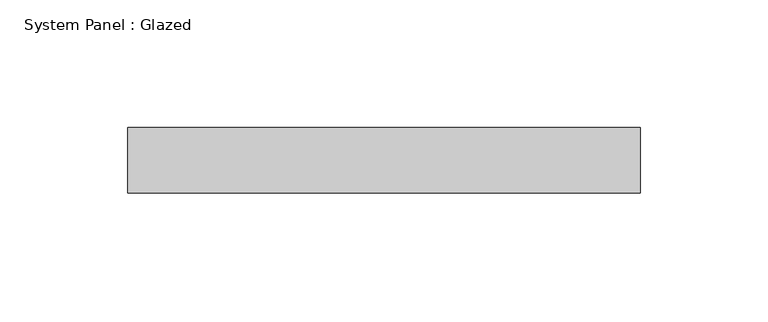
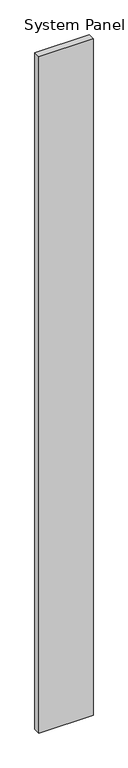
"""IFC4 building model written with IfcOpenShell, lengths in millimetres: plate geometry, System Panel : Glazed."""

from ifc_helpers import new_model, si_unit, origin, origin_with_axes, place, context, project, spatial, polyline, outline, extrude, source, transform, mapped, element, save


def system_panel_glazed_d4d25dca(model_context):
    return source(origin(), model_context, "Body", "SweptSolid", [
        extrude(outline(polyline([(100.0125, 19.05), (-100.0125, 19.05), (-100.0125, 44.45), (100.0125, 44.45), (100.0125, 19.05)])), origin_with_axes(), (0.0, 0.0, 1.0), 2640.780647),
    ])


if __name__ == "__main__":
    model = new_model("IFC4")
    model_context = context("Model", 3, world=origin())
    ifc_project = project(units=[si_unit("LENGTHUNIT", "METRE", prefix="MILLI")], contexts=[model_context])
    site = spatial("IfcSite", under=ifc_project)
    building = spatial("IfcBuilding", under=site)
    placement = place(None, origin())
    system_panel_glazed_shape = system_panel_glazed_d4d25dca(model_context)
    element("IfcPlate", 1, ObjectType="System Panel : Glazed", at=placement, inside=building, context=model_context, shape_type="MappedRepresentation", body=[
        mapped(system_panel_glazed_shape, transform((0.0, 0.0, 0.0), x_axis=(1.0, 0.0, 0.0), y_axis=(0.0, 1.0, 0.0), z_axis=(0.0, 0.0, 1.0))),
    ])
    save(model, "model.ifc")
